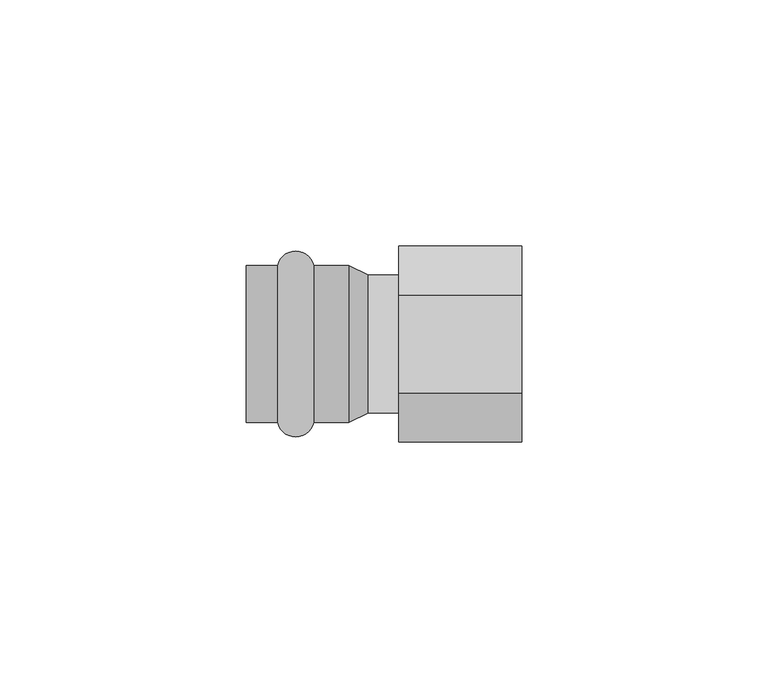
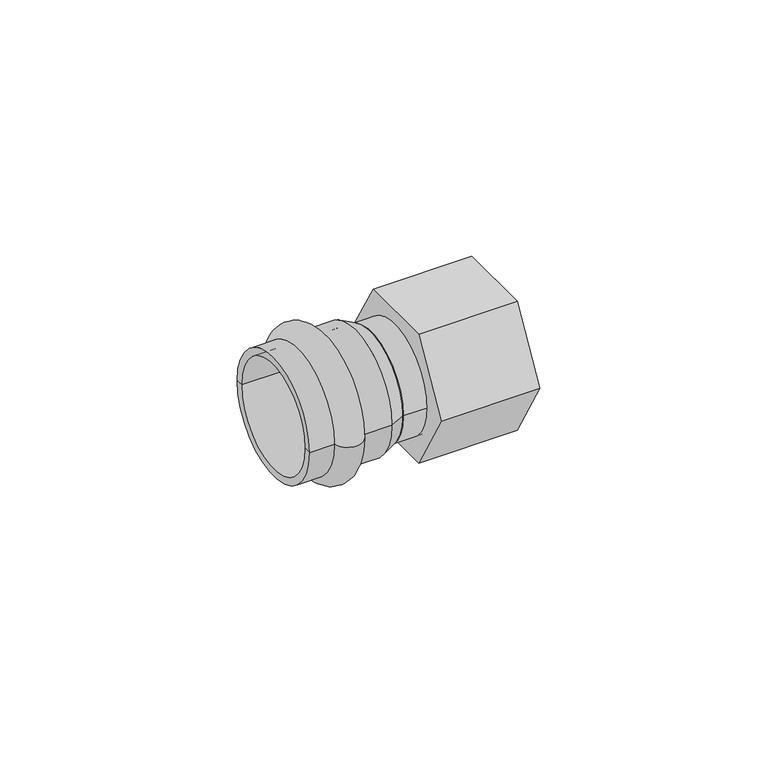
"""IFC4 building model written with IfcOpenShell, lengths in millimetres: pipe fitting geometry, VALTEC_VTi.908.I_Соединитель с накидной гайкой_Нержавеющая сталь : VTi.908.I."""

from ifc_helpers import new_model, si_unit, point, frame, origin, origin_2d, place, context, project, spatial, polyline, circle_curve, ellipse_curve, trimmed, segment, composite_curve, outline, extrude, source, transform, mapped, element, save
from ifc_brep_helpers import plane_surface, cylinder_surface, revolved_surface, advanced_brep


def pipe_fitting_5de0ccde(model_context):
    return source(origin(), model_context, "Body", "SolidModel", [
        advanced_brep(
        [(-37.1242346, -15.9, 0.0), (-37.1242346, 15.9, 0.0), (-29.7757654, 15.9, 0.0), (-29.7757654, -15.9, 0.0), (-43.5, -15.9, 0.0), (-43.5, 15.9, 0.0), (-43.5, -14.0, 0.0), (-43.5, 14.0, 0.0), (-22.7, -14.0, 0.0), (-22.7, 14.0, 0.0), (-22.7, -15.9, 0.0), (-22.7, 15.9, 0.0)],
        [
            (0, 1, circle_curve(frame((-37.1242346, 0.0, 0.0), z_axis=(1.0, 0.0, 0.0), x_axis=(0.0, 1.0, 0.0)), 15.9)),
            (1, 2, circle_curve(frame((-33.45, 15.15, 0.0), z_axis=(0.0, 0.0, -1.0), x_axis=(1.0, 0.0, 0.0)), 3.75)),
            (2, 3, circle_curve(frame((-29.7757654, 0.0, 0.0), z_axis=(-1.0, 0.0, 0.0), x_axis=(0.0, 1.0, 0.0)), 15.9)),
            (3, 0, circle_curve(frame((-33.45, -15.15, 0.0), z_axis=(0.0, 0.0, -1.0), x_axis=(1.0, 0.0, 0.0)), 3.75)),
            (1, 0, circle_curve(frame((-37.1242346, 0.0, 0.0), z_axis=(1.0, 0.0, 0.0), x_axis=(0.0, 1.0, 0.0)), 15.9)),
            (3, 2, circle_curve(frame((-29.7757654, 0.0, 0.0), z_axis=(-1.0, 0.0, 0.0), x_axis=(0.0, 1.0, 0.0)), 15.9)),
            (4, 5, circle_curve(frame((-43.5, 0.0, 0.0), z_axis=(1.0, 0.0, 0.0), x_axis=(0.0, 1.0, 0.0)), 15.9)),
            (5, 1),
            (0, 4),
            (5, 4, circle_curve(frame((-43.5, 0.0, 0.0), z_axis=(1.0, 0.0, 0.0), x_axis=(0.0, 1.0, 0.0)), 15.9)),
            (6, 7, circle_curve(frame((-43.5, 0.0, 0.0), z_axis=(1.0, 0.0, 0.0), x_axis=(0.0, 1.0, 0.0)), 14.0)),
            (7, 5),
            (4, 6),
            (7, 6, circle_curve(frame((-43.5, 0.0, 0.0), z_axis=(1.0, 0.0, 0.0), x_axis=(0.0, 1.0, 0.0)), 14.0)),
            (8, 9, circle_curve(frame((-22.7, 0.0, 0.0), z_axis=(1.0, 0.0, 0.0), x_axis=(0.0, 1.0, 0.0)), 14.0)),
            (9, 7),
            (6, 8),
            (9, 8, circle_curve(frame((-22.7, 0.0, 0.0), z_axis=(1.0, 0.0, 0.0), x_axis=(0.0, 1.0, 0.0)), 14.0)),
            (10, 11, circle_curve(frame((-22.7, 0.0, 0.0), z_axis=(1.0, 0.0, 0.0), x_axis=(0.0, 1.0, 0.0)), 15.9)),
            (11, 9),
            (8, 10),
            (11, 10, circle_curve(frame((-22.7, 0.0, 0.0), z_axis=(1.0, 0.0, 0.0), x_axis=(0.0, 1.0, 0.0)), 15.9)),
            (2, 11),
            (10, 3),
        ],
        [
            revolved_surface(trimmed(ellipse_curve(frame((-33.45, 15.15, 0.0), z_axis=(0.0, 0.0, 1.0), x_axis=(1.0, 0.0, 0.0)), 3.75, 3.75), [point((-29.7757654, 15.9, 0.0))], [point((-37.1242346, 15.9, 0.0))], True, "CARTESIAN"), (-47.0364426, 0.0, 0.0), (-1.0, 0.0, 0.0)),
            cylinder_surface(frame((-47.0364426, 0.0, 0.0), z_axis=(-1.0, 0.0, 0.0), x_axis=(0.0, 1.0, 0.0)), 15.9),
            plane_surface(frame((-43.5, 0.0, 0.0), z_axis=(-1.0, 0.0, 0.0), x_axis=(0.0, 1.0, 0.0))),
            revolved_surface(polyline([(-43.5, 14.0, 0.0), (-22.7, 14.0, 0.0)]), (-47.0364426, 0.0, 0.0), (-1.0, 0.0, 0.0)),
            plane_surface(frame((-22.7, 0.0, 0.0), z_axis=(1.0, 0.0, 0.0), x_axis=(0.0, 1.0, 0.0))),
        ],
        [
            (0, [[1, 2, 3, 4]]),
            (0, [[5, -4, 6, -2]]),
            (1, [[7, 8, -1, 9]]),
            (1, [[10, -9, -5, -8]]),
            (2, [[11, 12, -7, 13]]),
            (2, [[14, -13, -10, -12]]),
            (3, [[15, 16, -11, 17]]),
            (3, [[18, -17, -14, -16]]),
            (4, [[19, 20, -15, 21]]),
            (4, [[22, -21, -18, -20]]),
            (1, [[-3, 23, -19, 24]]),
            (1, [[-6, -24, -22, -23]]),
        ],
    ),
        extrude(outline(polyline([(-19.9185843, 0.0), (-9.9592921, 17.25), (9.9592921, 17.25), (19.9185843, 0.0), (9.9592921, -17.25), (-9.9592921, -17.25), (-19.9185843, 0.0)])), frame((-12.5, 0.0, 0.0), z_axis=(1.0, 0.0, 0.0), x_axis=(0.0, 1.0, 0.0)), (0.0, 0.0, 1.0), 25.0),
        extrude(outline(composite_curve([segment(trimmed(circle_curve(origin_2d(), 14.0), [point((-14.0, 0.0))], [point((14.0, 0.0))], False, "CARTESIAN"), True, "CONTINUOUS"), segment(trimmed(circle_curve(origin_2d(), 14.0), [point((14.0, 0.0))], [point((-14.0, 0.0))], False, "CARTESIAN"), True, "CONTINUOUS")], self_intersect=False)), frame((-18.7, 0.0, 0.0), z_axis=(1.0, 0.0, 0.0), x_axis=(0.0, 1.0, 0.0)), (0.0, 0.0, 1.0), 10.2),
        advanced_brep(
        [(-18.7, -14.0, 0.0), (-18.7, 14.0, 0.0), (-22.7, -15.9, 0.0), (-22.7, 15.9, 0.0)],
        [
            (0, 1, circle_curve(frame((-18.7, 0.0, 0.0), z_axis=(1.0, 0.0, 0.0), x_axis=(0.0, -1.0, 0.0)), 14.0)),
            (1, 0, circle_curve(frame((-18.7, 0.0, 0.0), z_axis=(1.0, 0.0, 0.0), x_axis=(0.0, 1.0, 0.0)), 14.0)),
            (2, 3, circle_curve(frame((-22.7, 0.0, 0.0), z_axis=(-1.0, 0.0, 0.0), x_axis=(0.0, 1.0, 0.0)), 15.9)),
            (3, 2, circle_curve(frame((-22.7, 0.0, 0.0), z_axis=(-1.0, 0.0, 0.0), x_axis=(0.0, -1.0, 0.0)), 15.9)),
            (3, 1),
            (0, 2),
        ],
        [
            plane_surface(frame((-18.7, 0.0, 0.0), z_axis=(1.0, 0.0, 0.0), x_axis=(0.0, 0.0, -1.0))),
            plane_surface(frame((-22.7, 0.0, 0.0), z_axis=(-1.0, 0.0, 0.0), x_axis=(0.0, 0.0, -1.0))),
            revolved_surface(polyline([(-18.700000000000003, -13.999999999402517, 0.0), (-22.700000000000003, -15.9, 0.0)]), (10.7736842, 0.0, 0.0), (-1.0, 0.0, 0.0)),
            revolved_surface(polyline([(-18.700000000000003, 13.999999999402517, 0.0), (-22.700000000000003, 15.9, 0.0)]), (10.7736842, 0.0, 0.0), (-1.0, 0.0, 0.0)),
        ],
        [
            (0, [[1, 2]]),
            (1, [[3, 4]]),
            (2, [[-4, 5, -1, 6]]),
            (3, [[-3, -6, -2, -5]]),
        ],
    ),
    ])


if __name__ == "__main__":
    model = new_model("IFC4")
    model_context = context("Model", 3, world=origin())
    ifc_project = project(units=[si_unit("LENGTHUNIT", "METRE", prefix="MILLI")], contexts=[model_context])
    site = spatial("IfcSite", under=ifc_project)
    building = spatial("IfcBuilding", under=site)
    placement = place(None, origin())
    pipe_fitting_shape = pipe_fitting_5de0ccde(model_context)
    element("IfcPipeFitting", 1, ObjectType="VALTEC_VTi.908.I_Соединитель с накидной гайкой_Нержавеющая сталь : VTi.908.I", at=placement, inside=building, context=model_context, shape_type="MappedRepresentation", body=[
        mapped(pipe_fitting_shape, transform((0.0, 0.0, 0.0), x_axis=(1.0, 0.0, 0.0), y_axis=(0.0, 1.0, 0.0), z_axis=(0.0, 0.0, 1.0))),
    ])
    save(model, "model.ifc")
